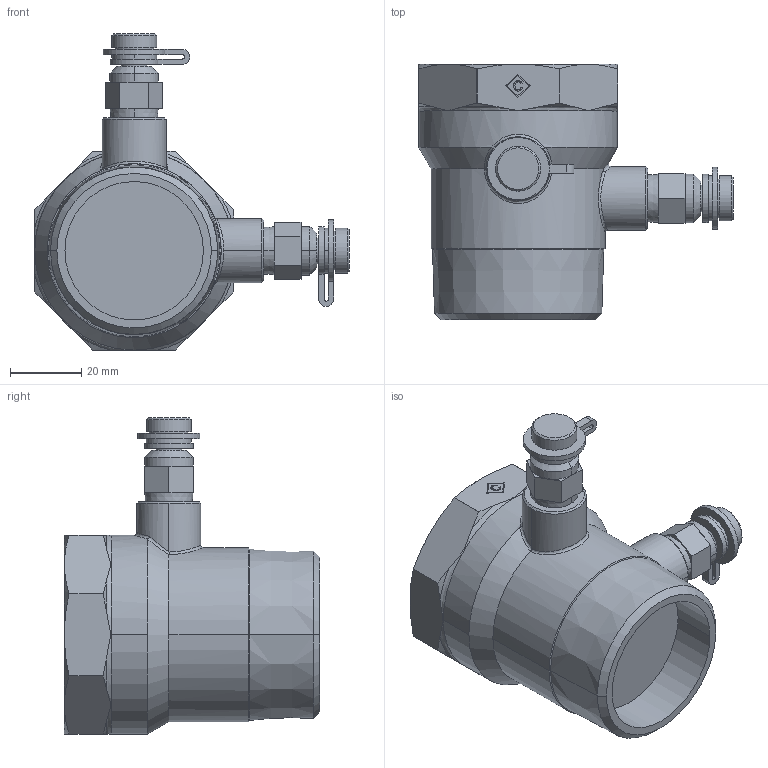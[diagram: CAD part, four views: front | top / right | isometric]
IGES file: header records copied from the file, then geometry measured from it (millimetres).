
Global section: file name: No Iges File Name specified; native system: AutoDesk Inventor R12.0; preprocessor: AutoDesk Inventor Iges Exporter R12.0; date: 20110111.154259; units: millimetre
Bounding box: 88.61 x 72 x 89.11 mm (x, y, z)
Volume: 133446 mm3; surface area: 23841.8 mm2
Topology: 1 solids, 1 shells, 180 faces, 441 edges, 282 vertices
Faces by surface type: plane 75, cylinder 40, cone 39, bspline 22, revolution 4
